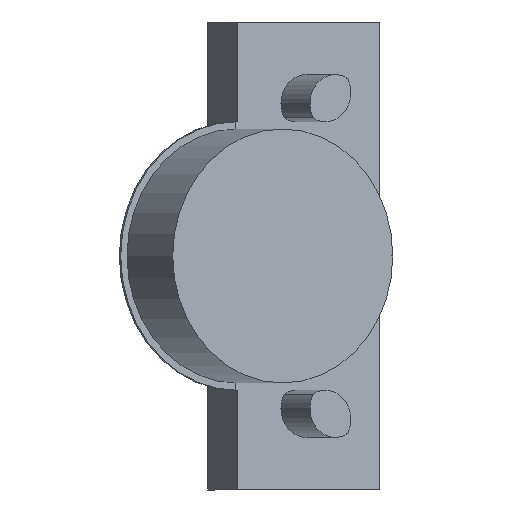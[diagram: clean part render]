
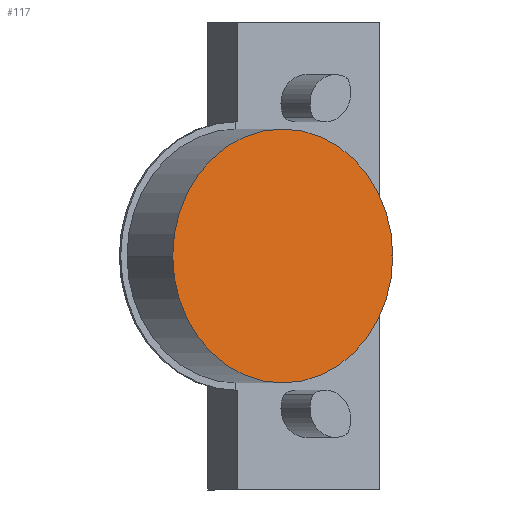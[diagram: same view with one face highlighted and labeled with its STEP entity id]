
A CAD part, front view. The second image highlights one B-rep face of the part: STEP entity #117.
In plain terms, the highlighted planar face has unit normal (0.5, -0.866, 0).
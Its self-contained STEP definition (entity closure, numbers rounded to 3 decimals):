
#60 = DIRECTION ( 'NONE',  ( 0.5, -0.866, 0. ) ) ;
#117 = ADVANCED_FACE ( 'NONE', ( #463 ), #998, .T. ) ;
#149 = CARTESIAN_POINT ( 'NONE',  ( 27.205, -54.152, 0. ) ) ;
#169 = EDGE_CURVE ( 'NONE', #432, #470, #171, .T. ) ;
#171 = CIRCLE ( 'NONE', #1628, 17.5 ) ;
#177 = DIRECTION ( 'NONE',  ( 0.866, 0.5, 0. ) ) ;
#255 = EDGE_LOOP ( 'NONE', ( #1434, #662 ) ) ;
#258 = CARTESIAN_POINT ( 'NONE',  ( -3.105, -71.652, 0. ) ) ;
#314 = CARTESIAN_POINT ( 'NONE',  ( 12.05, -62.902, 0. ) ) ;
#432 = VERTEX_POINT ( 'NONE', #149 ) ;
#463 = FACE_OUTER_BOUND ( 'NONE', #255, .T. ) ;
#470 = VERTEX_POINT ( 'NONE', #258 ) ;
#524 = EDGE_CURVE ( 'NONE', #470, #432, #715, .T. ) ;
#662 = ORIENTED_EDGE ( 'NONE', *, *, #169, .T. ) ;
#715 = CIRCLE ( 'NONE', #795, 17.5 ) ;
#795 = AXIS2_PLACEMENT_3D ( 'NONE', #1347, #1619, #1100 ) ;
#998 = PLANE ( 'NONE',  #1409 ) ;
#1100 = DIRECTION ( 'NONE',  ( 0.866, 0.5, 0. ) ) ;
#1225 = DIRECTION ( 'NONE',  ( 0.866, 0.5, 0. ) ) ;
#1347 = CARTESIAN_POINT ( 'NONE',  ( 12.05, -62.902, 0. ) ) ;
#1357 = CARTESIAN_POINT ( 'NONE',  ( 12.05, -62.902, 0. ) ) ;
#1375 = DIRECTION ( 'NONE',  ( 0.5, -0.866, 0. ) ) ;
#1409 = AXIS2_PLACEMENT_3D ( 'NONE', #314, #1375, #1225 ) ;
#1434 = ORIENTED_EDGE ( 'NONE', *, *, #524, .T. ) ;
#1619 = DIRECTION ( 'NONE',  ( 0.5, -0.866, 0. ) ) ;
#1628 = AXIS2_PLACEMENT_3D ( 'NONE', #1357, #60, #177 ) ;
